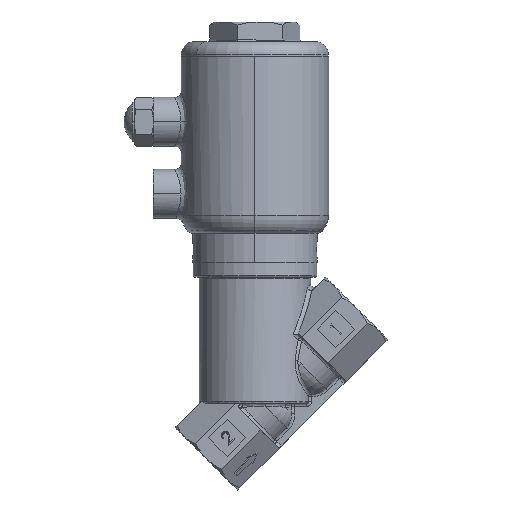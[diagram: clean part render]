
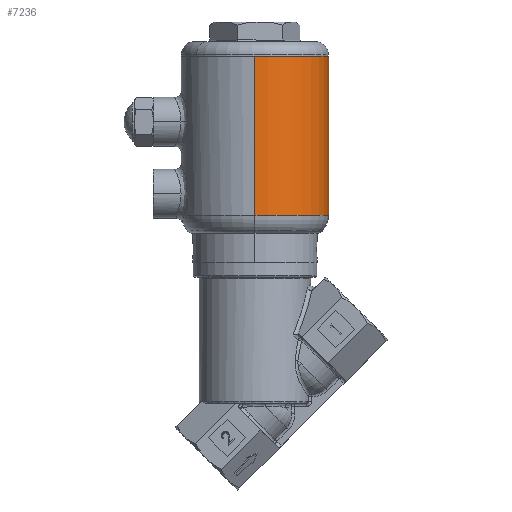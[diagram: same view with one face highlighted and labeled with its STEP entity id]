
A CAD part, top view. The second image highlights one B-rep face of the part: STEP entity #7236.
In plain terms, the highlighted cylindrical face has radius 22.5 mm (diameter 45 mm), a partial arc.
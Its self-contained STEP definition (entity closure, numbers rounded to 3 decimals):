
#95 = CARTESIAN_POINT ( 'NONE',  ( 0., 37.809, -22.5 ) ) ;
#313 = DIRECTION ( 'NONE',  ( 0., 0., 1. ) ) ;
#528 = DIRECTION ( 'NONE',  ( 0., 0., 1. ) ) ;
#1459 = VECTOR ( 'NONE', #12122, 1000. ) ;
#2048 = CARTESIAN_POINT ( 'NONE',  ( 0., 37.809, -22.5 ) ) ;
#2428 = DIRECTION ( 'NONE',  ( 0., 0., -1. ) ) ;
#2858 = FACE_OUTER_BOUND ( 'NONE', #5611, .T. ) ;
#2975 = VERTEX_POINT ( 'NONE', #95 ) ;
#3418 = CARTESIAN_POINT ( 'NONE',  ( 0., 37.809, 22.5 ) ) ;
#4250 = AXIS2_PLACEMENT_3D ( 'NONE', #12542, #6430, #313 ) ;
#4483 = LINE ( 'NONE', #4974, #1459 ) ;
#4547 = VERTEX_POINT ( 'NONE', #3418 ) ;
#4772 = LINE ( 'NONE', #2048, #13232 ) ;
#4974 = CARTESIAN_POINT ( 'NONE',  ( 0., 37.809, 22.5 ) ) ;
#5036 = AXIS2_PLACEMENT_3D ( 'NONE', #12768, #6654, #528 ) ;
#5611 = EDGE_LOOP ( 'NONE', ( #11687, #9828, #6676, #11549 ) ) ;
#6141 = DIRECTION ( 'NONE',  ( 0., -1., 0. ) ) ;
#6430 = DIRECTION ( 'NONE',  ( 0., -1., 0. ) ) ;
#6654 = DIRECTION ( 'NONE',  ( 0., 1., 0. ) ) ;
#6676 = ORIENTED_EDGE ( 'NONE', *, *, #7147, .F. ) ;
#7147 = EDGE_CURVE ( 'NONE', #8530, #7470, #11644, .T. ) ;
#7236 = ADVANCED_FACE ( 'NONE', ( #2858 ), #10691, .T. ) ;
#7470 = VERTEX_POINT ( 'NONE', #7908 ) ;
#7534 = EDGE_CURVE ( 'NONE', #4547, #7470, #4483, .T. ) ;
#7908 = CARTESIAN_POINT ( 'NONE',  ( 0., -10.787, 22.5 ) ) ;
#7923 = CARTESIAN_POINT ( 'NONE',  ( 0., -10.787, -22.5 ) ) ;
#8513 = CARTESIAN_POINT ( 'NONE',  ( 0., 37.809, 0. ) ) ;
#8530 = VERTEX_POINT ( 'NONE', #7923 ) ;
#8834 = EDGE_CURVE ( 'NONE', #4547, #2975, #11157, .T. ) ;
#9708 = EDGE_CURVE ( 'NONE', #2975, #8530, #4772, .T. ) ;
#9742 = AXIS2_PLACEMENT_3D ( 'NONE', #8513, #12591, #2428 ) ;
#9828 = ORIENTED_EDGE ( 'NONE', *, *, #7534, .T. ) ;
#10691 = CYLINDRICAL_SURFACE ( 'NONE', #9742, 22.5 ) ;
#11157 = CIRCLE ( 'NONE', #5036, 22.5 ) ;
#11549 = ORIENTED_EDGE ( 'NONE', *, *, #9708, .F. ) ;
#11644 = CIRCLE ( 'NONE', #4250, 22.5 ) ;
#11687 = ORIENTED_EDGE ( 'NONE', *, *, #8834, .F. ) ;
#12122 = DIRECTION ( 'NONE',  ( 0., -1., 0. ) ) ;
#12542 = CARTESIAN_POINT ( 'NONE',  ( 0., -10.787, 0. ) ) ;
#12591 = DIRECTION ( 'NONE',  ( 0., -1., 0. ) ) ;
#12768 = CARTESIAN_POINT ( 'NONE',  ( 0., 37.809, 0. ) ) ;
#13232 = VECTOR ( 'NONE', #6141, 1000. ) ;
